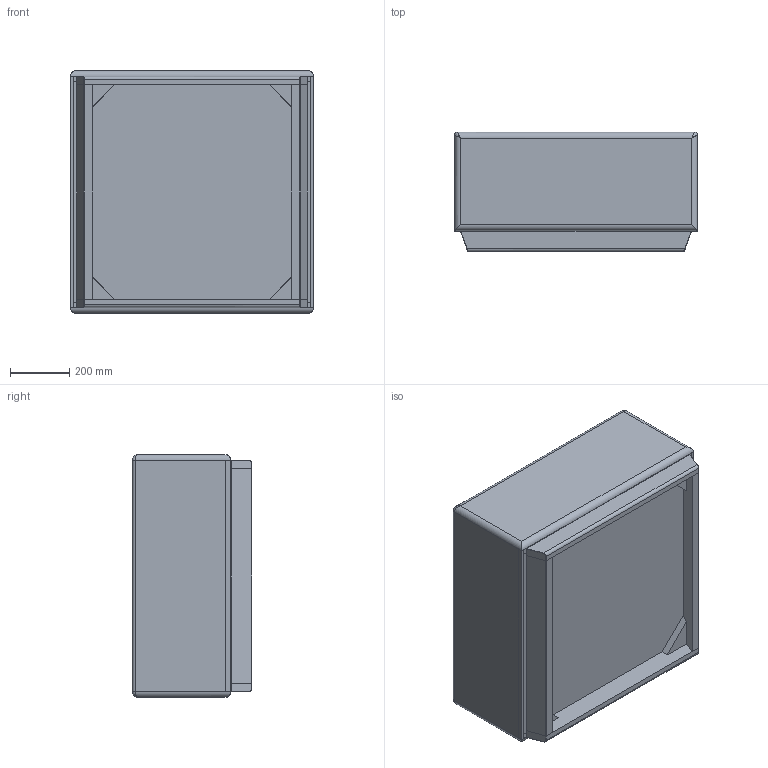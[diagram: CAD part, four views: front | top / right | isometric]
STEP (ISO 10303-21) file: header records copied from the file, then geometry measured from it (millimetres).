
FILE_DESCRIPTION(/* description */ (''),/* implementation_level */ '2;1');
FILE_NAME(/* name */ '1OH-0024 - Ohio Coffee Table - STEP (Simplified).stp',/* time_stamp */ '2025-11-13T12:10:18Z',/* author */ ('craig.ferris'),/* organization */ (''),/* preprocessor_version */ 'ST-DEVELOPER v20',/* originating_system */ 'Autodesk Inventor 2025',/* authorisation */ '');
FILE_SCHEMA (('AUTOMOTIVE_DESIGN { 1 0 10303 214 3 1 1 }'));
Length unit declared in the file: millimetre
Products named in the file (1): 1OH-0024 - Ohio Coffee Table (Simplified)
Bounding box: 818 x 402 x 818 mm (x, y, z)
Volume: 75831720.9 mm3; surface area: 7532198.1 mm2
Topology: 17 solids, 17 shells, 148 faces, 310 edges, 188 vertices
Faces by surface type: plane 102, cylinder 34, bspline 8, sphere 4
Entity records: 5086 total; most frequent: CARTESIAN_POINT 1945, DIRECTION 616, ORIENTED_EDGE 604, EDGE_CURVE 302, LINE 238, VECTOR 238, AXIS2_PLACEMENT_3D 189, VERTEX_POINT 188
